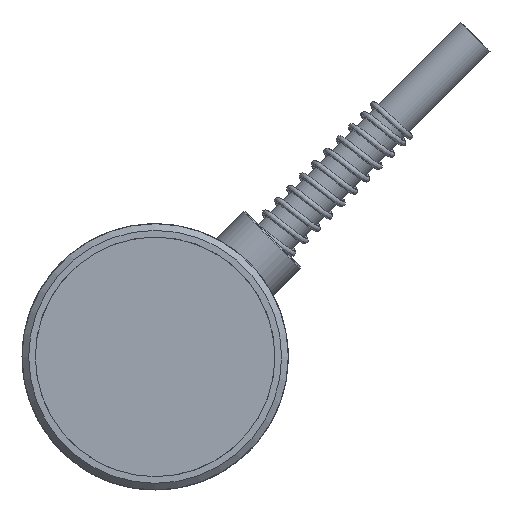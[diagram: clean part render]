
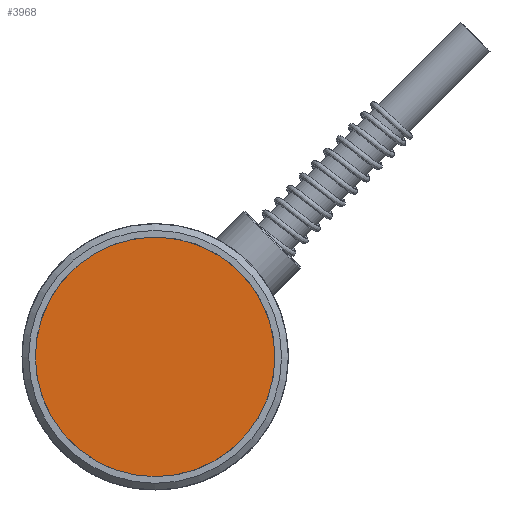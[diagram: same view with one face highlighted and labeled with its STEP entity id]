
A CAD part, left-side view. The second image highlights one B-rep face of the part: STEP entity #3968.
In plain terms, the highlighted planar face has unit normal (-1, 0, 0).
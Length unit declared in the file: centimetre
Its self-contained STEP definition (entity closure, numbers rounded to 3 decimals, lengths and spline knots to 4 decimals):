
#1359=PLANE('',#4231);
#1569=VERTEX_POINT('',#5767);
#1570=VERTEX_POINT('',#5768);
#1797=CIRCLE('',#4230,0.9);
#2074=EDGE_CURVE('',#1569,#1570,#1797,.T.);
#2075=EDGE_CURVE('',#1570,#1569,#1797,.T.);
#2789=ORIENTED_EDGE('',*,*,#2074,.T.);
#2790=ORIENTED_EDGE('',*,*,#2075,.T.);
#3492=EDGE_LOOP('',(#2789,#2790));
#3738=FACE_BOUND('',#3492,.T.);
#3968=ADVANCED_FACE('',(#3738),#1359,.F.);
#4230=AXIS2_PLACEMENT_3D('',#5766,#4752,#4753);
#4231=AXIS2_PLACEMENT_3D('',#5769,#4754,$);
#4752=DIRECTION('',(-1.,0.,0.));
#4753=DIRECTION('',(0.,0.,-0.9));
#4754=DIRECTION('',(1.,0.,0.));
#5766=CARTESIAN_POINT('',(-1.6,0.,0.));
#5767=CARTESIAN_POINT('',(-1.6,0.,-0.9));
#5768=CARTESIAN_POINT('',(-1.6,-0.6364,0.6364));
#5769=CARTESIAN_POINT('',(-1.6,0.,0.));
